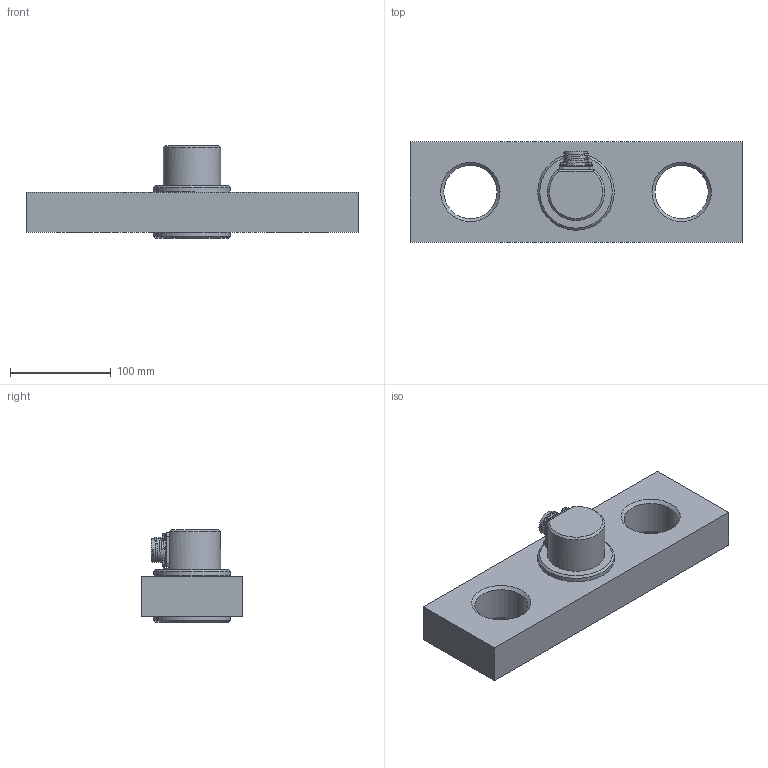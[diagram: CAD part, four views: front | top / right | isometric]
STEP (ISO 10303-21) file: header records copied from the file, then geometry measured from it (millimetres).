
FILE_DESCRIPTION(/* description */ ('Alibre Inc.'),/* implementation_level */ '2;1');
FILE_NAME(/* name */ 'export0',/* time_stamp */ '2018-02-08T09:16:18+00:00',/* author */ (''),/* organization */ (''),/* preprocessor_version */ 'ST-DEVELOPER v14',/* originating_system */ 'Alibre',/* authorisation */ '');
FILE_SCHEMA (('CONFIG_CONTROL_DESIGN'));
Length unit declared in the file: centimetre
Products named in the file (9): ID_1; ID_2; ID_3; ID_4; ID_5; ID_6; ID_7
Bounding box: 330 x 100 x 92 mm (x, y, z)
Volume: 1210461.4 mm3; surface area: 150145.1 mm2
Topology: 23 solids, 23 shells, 624 faces, 1479 edges, 958 vertices
Faces by surface type: plane 331, cylinder 132, bspline 78, cone 76, sphere 6, torus 1
Full cylindrical faces by diameter (mm): 1.448 x6, 1.473 x6, 1.55 x6, 1.613 x6, 2.134 x6, 2.565 x12, 2.59 x12, 3.6 x4, 3.9 x4, 4.83 x4, 7.7 x4, 13.54 x1, 13.65 x1, 13.73 x1, 15.16 x1, 15.2 x1, 15.35 x1, 15.67 x1, 16.12 x1, 17.05 x1, 17.91 x1, 18.6 x2, 20.114 x1, 22.73 x2, 25.05 x3, 25.4 x1, 29.45 x1, 29.65 x2, 30 x1, 53 x2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
Entity records: 17089 total; most frequent: CARTESIAN_POINT 4716, ORIENTED_EDGE 2246, DIRECTION 1905, EDGE_CURVE 1123, VERTEX_POINT 814, AXIS2_PLACEMENT_3D 791, FACE_BOUND 777, EDGE_LOOP 776
